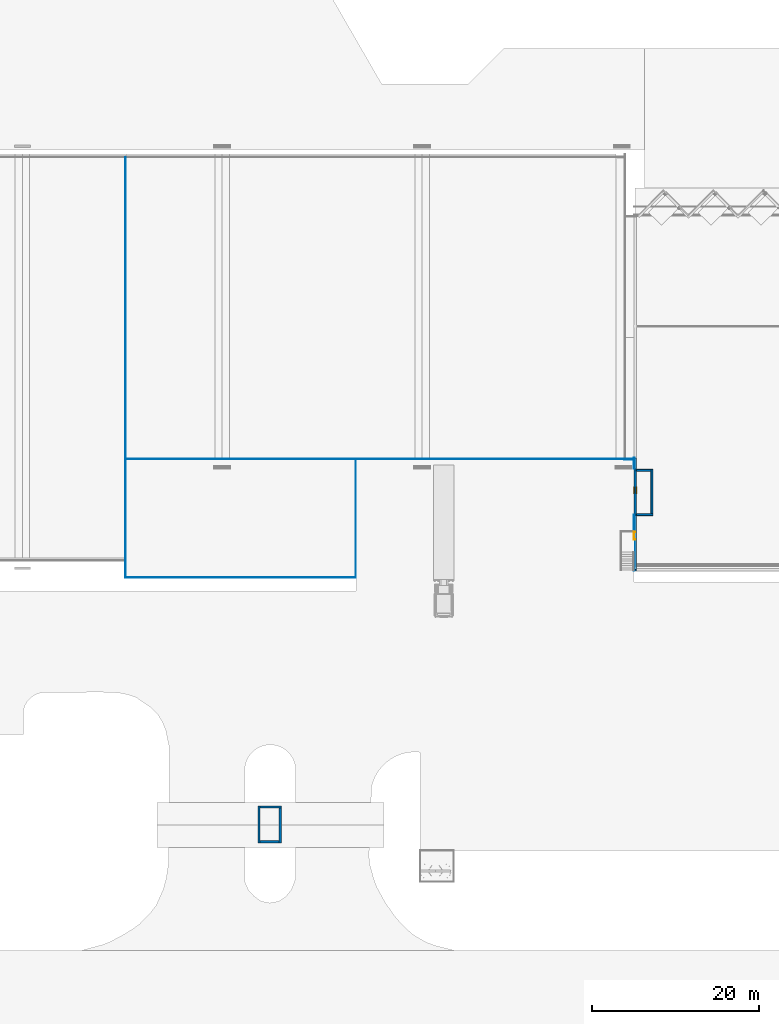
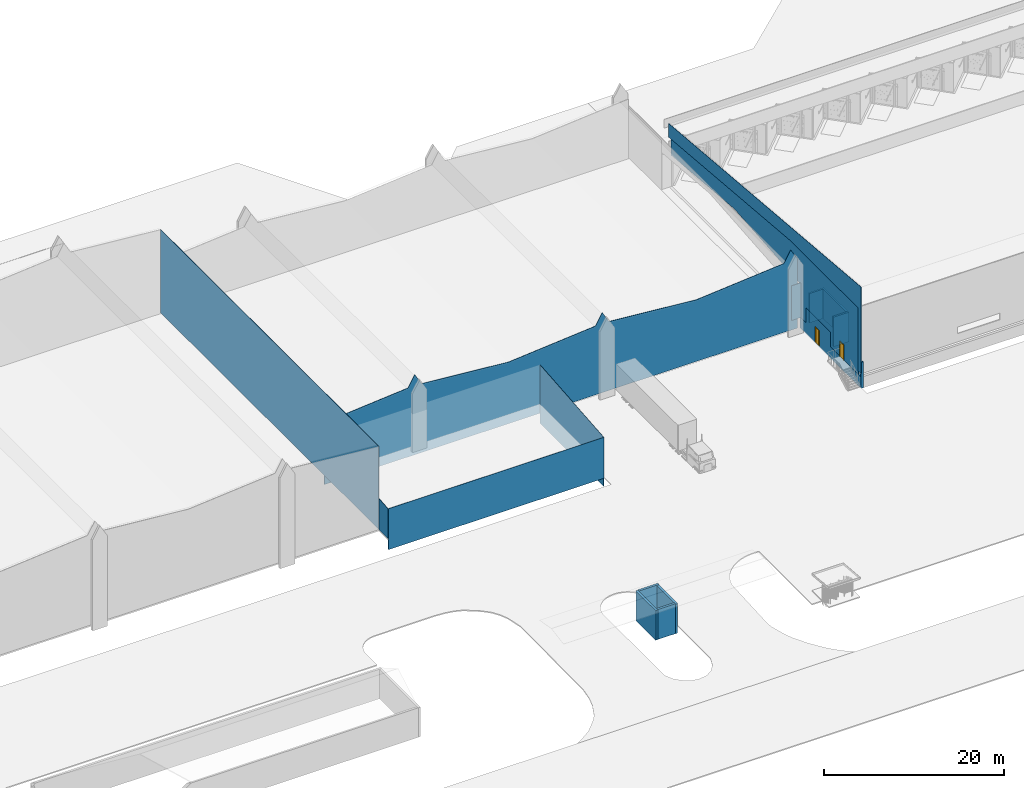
"""IFC2X3 building model written with IfcOpenShell, lengths in millimetres."""

from ifc_helpers import new_model, entity, si_unit, converted_unit, derived_unit, direction, frame, frame_2d, origin, origin_2d_with_axis, place, context, subcontext, project, spatial, polyline, rectangle, outline, extrude, clip, halfspace, source, transform, mapped, material, material_list, layer, layer_set, layer_usage, type_object, type_shapes, element, fill, save


model = new_model("IFC2X3")

# Units and contexts
model_context = context("Model", 3, precision=0.01, world=origin(), true_north=direction((4.05803320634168e-15, -1.0)))
body_context = subcontext(model_context, "Body", "Model", "MODEL_VIEW")
ifc_project = project(units=[si_unit("LENGTHUNIT", "METRE", prefix="MILLI"), si_unit("AREAUNIT", "SQUARE_METRE"), si_unit("VOLUMEUNIT", "CUBIC_METRE"), converted_unit("PLANEANGLEUNIT", "DEGREE", entity("IfcRatioMeasure", 0.0174532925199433), si_unit("PLANEANGLEUNIT", "RADIAN"), dimensions=[0, 0, 0, 0, 0, 0, 0]), si_unit("MASSUNIT", "GRAM", prefix="KILO"), derived_unit("MASSDENSITYUNIT", [(si_unit("MASSUNIT", "GRAM", prefix="KILO"), 1), (si_unit("LENGTHUNIT", "METRE"), -3)]), si_unit("TIMEUNIT", "SECOND"), si_unit("FREQUENCYUNIT", "HERTZ"), si_unit("THERMODYNAMICTEMPERATUREUNIT", "DEGREE_CELSIUS"), derived_unit("THERMALTRANSMITTANCEUNIT", [(si_unit("MASSUNIT", "GRAM", prefix="KILO"), 1), (si_unit("THERMODYNAMICTEMPERATUREUNIT", "KELVIN"), -1), (si_unit("TIMEUNIT", "SECOND"), -3)]), derived_unit("VOLUMETRICFLOWRATEUNIT", [(si_unit("LENGTHUNIT", "METRE"), 3), (si_unit("TIMEUNIT", "SECOND"), -1)]), si_unit("ELECTRICCURRENTUNIT", "AMPERE"), si_unit("ELECTRICVOLTAGEUNIT", "VOLT"), si_unit("POWERUNIT", "WATT"), si_unit("FORCEUNIT", "NEWTON", prefix="KILO"), si_unit("ILLUMINANCEUNIT", "LUX"), si_unit("LUMINOUSFLUXUNIT", "LUMEN"), si_unit("LUMINOUSINTENSITYUNIT", "CANDELA"), derived_unit("USERDEFINED", [(si_unit("MASSUNIT", "GRAM", prefix="KILO"), -1), (si_unit("LENGTHUNIT", "METRE"), -2), (si_unit("TIMEUNIT", "SECOND"), 3), (si_unit("LUMINOUSFLUXUNIT", "LUMEN"), 1)]), derived_unit("LINEARVELOCITYUNIT", [(si_unit("LENGTHUNIT", "METRE"), 1), (si_unit("TIMEUNIT", "SECOND"), -1)]), si_unit("PRESSUREUNIT", "PASCAL"), derived_unit("USERDEFINED", [(si_unit("LENGTHUNIT", "METRE"), -2), (si_unit("MASSUNIT", "GRAM", prefix="KILO"), 1), (si_unit("TIMEUNIT", "SECOND"), -2)])], contexts=[model_context])

# Site, building, storey
site_placement = place(None, frame((927466.849349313, 583801.882853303, 0.0), z_axis=(0.0, 0.0, 1.0), x_axis=(-1.0, 0.0, 0.0)))
site = spatial("IfcSite", under=ifc_project, at=site_placement, Name="Surface", CompositionType="ELEMENT")
building_placement = place(site_placement, origin())
building = spatial("IfcBuilding", under=site, at=building_placement, CompositionType="ELEMENT")
storey_1_placement = place(building_placement, frame((0.0, 0.0, 44170.0)))
storey_1 = spatial("IfcBuildingStorey", under=building, at=storey_1_placement, Name="Ground FFL", CompositionType="ELEMENT", Elevation=44170.0)

# Wall
ifc_material_1 = material(Name="Side cladding")
ifc_layer_1 = layer(ifc_material_1, 38.0)
ifc_layer_set_1 = layer_set([ifc_layer_1], Name="Basic Wall:Cladding dark")
ifc_layer_usage_1 = layer_usage(ifc_layer_set_1, "AXIS2", "NEGATIVE", 19.0)
wall_type_1 = type_object("IfcWallType", Name="Basic Wall:Cladding dark", PredefinedType="STANDARD", material=ifc_layer_set_1)
wall_1_placement = place(storey_1_placement, frame((16429.857875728, 10794.6738606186, 0.0), z_axis=(0.0, 0.0, 1.0), x_axis=(0.0, -1.0, 0.0)))
element("IfcWallStandardCase", 1, at=wall_1_placement, inside=storey_1, type_object=wall_type_1, material=ifc_layer_usage_1, Name="Basic Wall:Cladding dark", ObjectType="Basic Wall:Cladding dark", context=body_context, shape_type="SweptSolid", body=[
    extrude(rectangle(XDim=48392.4255867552, YDim=38.0, at=frame_2d((24196.2127933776, -8.88178419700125e-14), x_axis=(-1.0, 0.0))), origin(), (0.0, 0.0, 1.0), 11268.8624887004),
])

# Wall, openings
ifc_layer_usage_2 = layer_usage(ifc_layer_set_1, "AXIS2", "POSITIVE", -19.0)
wall_2_placement = place(storey_1_placement, frame((16410.8578757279, -1340.36461970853, -1300.0), z_axis=(0.0, 0.0, 1.0), x_axis=(-1.0, 0.0, 0.0)))
wall_2 = element("IfcWallStandardCase", 2, at=wall_2_placement, inside=storey_1, type_object=wall_type_1, material=ifc_layer_usage_2, Name="Basic Wall:Cladding dark", ObjectType="Basic Wall:Cladding dark", context=body_context, shape_type="Clipping", body=[
    clip(extrude(rectangle(XDim=60574.2060773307, YDim=38.0, at=frame_2d((30287.1030386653, -8.34887714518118e-14), x_axis=(-1.0, 0.0))), origin(), (0.0, 0.0, 1.0), 10853.2295723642), halfspace(frame((59744.9701931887, -19.0, 10853.2295723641), z_axis=(0.866025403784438, 0.0, 0.500000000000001), x_axis=(0.0, 1.0, 0.0)), False)),
])
opening_1_placement = place(wall_2_placement, origin())
element("IfcOpeningElement", 3, at=opening_1_placement, cuts=wall_2, Name="Basic Wall:Cladding dark", ObjectType="Opening", context=body_context, shape_type="SweptSolid", body=[
    extrude(outline(polyline([(-12075.2332121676, -1101.16334743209), (12075.2332121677, -1101.16334743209), (11204.2871230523, 407.359529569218), (0.0, 1387.60763572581), (-11204.2871230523, 407.359529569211), (-12075.2332121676, -1101.16334743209)])), frame((47669.736981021, 19.0, 9752.06622493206), z_axis=(0.0, -1.0, 0.0), x_axis=(-1.0, 0.0, 0.0)), (0.0, 0.0, 1.0), 38.0),
])
opening_2_placement = place(wall_2_placement, origin())
element("IfcOpeningElement", 4, at=opening_2_placement, cuts=wall_2, Name="Basic Wall:Cladding dark", ObjectType="Opening", context=body_context, shape_type="SweptSolid", body=[
    extrude(outline(polyline([(-12003.6323703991, -1112.34735409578), (12003.6323703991, -1112.34735409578), (11120.5139602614, 417.258601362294), (0.0, 1390.17750546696), (-11120.5139602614, 417.258601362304), (-12003.6323703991, -1112.34735409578)])), frame((23590.8713984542, 19.0, 9740.88221826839), z_axis=(0.0, -1.0, 0.0), x_axis=(-1.0, 0.0, 0.0)), (0.0, 0.0, 1.0), 38.0),
])
opening_3_placement = place(wall_2_placement, origin())
element("IfcOpeningElement", 5, at=opening_3_placement, cuts=wall_2, Name="Basic Wall:Cladding dark", ObjectType="Opening", context=body_context, shape_type="SweptSolid", body=[
    extrude(outline(polyline([(-6020.85603630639, -989.065546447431), (5585.38299174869, -989.065546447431), (5585.38299174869, 1458.67376234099), (-5149.90994719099, 519.457330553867), (-6020.85603630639, -989.065546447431)])), frame((5566.3829917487, 19.0, 9864.16402591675), z_axis=(0.0, -1.0, 0.0), x_axis=(-1.0, 0.0, 0.0)), (0.0, 0.0, 1.0), 38.0),
])

# Walls
ifc_material_2 = material(Name="Brick, Common")
ifc_layer_2 = layer(ifc_material_2, 110.0)
ifc_material_3 = material(Name="Air")
ifc_layer_3 = layer(ifc_material_3, 50.0)
ifc_layer_4 = layer(ifc_material_2, 110.0)
ifc_layer_set_2 = layer_set([ifc_layer_2, ifc_layer_3, ifc_layer_4], Name="Basic Wall:wall Brick 270")
ifc_layer_usage_3 = layer_usage(ifc_layer_set_2, "AXIS2", "NEGATIVE", 135.0)
wall_type_2 = type_object("IfcWallType", Name="Basic Wall:wall Brick 270", PredefinedType="STANDARD", material=ifc_layer_set_2)
wall_3_placement = place(storey_1_placement, frame((410.848393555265, 44725.0233918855, 0.0), z_axis=(0.0, 0.0, 1.0), x_axis=(0.0, -1.0, 0.0)))
element("IfcWallStandardCase", 6, at=wall_3_placement, inside=storey_1, type_object=wall_type_2, material=ifc_layer_usage_3, Name="Basic Wall:wall Brick 270", ObjectType="Basic Wall:wall Brick 270", context=body_context, shape_type="SweptSolid", body=[
    extrude(rectangle(XDim=4435.00000000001, YDim=270.0, at=frame_2d((2217.50000000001, 1.4210854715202e-14), x_axis=(-1.0, 0.0))), origin(), (0.0, 0.0, 1.0), 3999.99999999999),
])
ifc_layer_usage_4 = layer_usage(ifc_layer_set_2, "AXIS2", "NEGATIVE", 135.0)
wall_4_placement = place(storey_1_placement, frame((275.848393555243, 40425.0233918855, 0.0), z_axis=(0.0, 0.0, 1.0), x_axis=(-1.0, 0.0, 0.0)))
element("IfcWallStandardCase", 7, at=wall_4_placement, inside=storey_1, type_object=wall_type_2, material=ifc_layer_usage_4, Name="Basic Wall:wall Brick 270", ObjectType="Basic Wall:wall Brick 270", context=body_context, shape_type="SweptSolid", body=[
    extrude(rectangle(XDim=2555.17253898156, YDim=270.000000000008, at=frame_2d((1277.58626949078, -4.12114786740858e-13), x_axis=(-1.0, 0.0))), origin(), (0.0, 0.0, 1.0), 4050.77133059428),
])
ifc_layer_usage_5 = layer_usage(ifc_layer_set_2, "AXIS2", "NEGATIVE", 135.0)
wall_5_placement = place(storey_1_placement, frame((275.848393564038, 44580.8609107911, 0.0), z_axis=(0.0, 0.0, 1.0), x_axis=(-1.0, 0.0, 0.0)))
element("IfcWallStandardCase", 8, at=wall_5_placement, inside=storey_1, type_object=wall_type_2, material=ifc_layer_usage_5, Name="Basic Wall:wall Brick 270", ObjectType="Basic Wall:wall Brick 270", context=body_context, shape_type="SweptSolid", body=[
    extrude(rectangle(XDim=2270.00000002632, YDim=270.000000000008, at=frame_2d((1135.00000001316, -9.37916411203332e-13), x_axis=(-1.0, 0.0))), origin(), (0.0, 0.0, 1.0), 4050.19099187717),
])
ifc_layer_usage_6 = layer_usage(ifc_layer_set_2, "AXIS2", "NEGATIVE", 135.0)
wall_6_placement = place(storey_1_placement, frame((-2129.15160645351, 44725.0233918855, 0.0), z_axis=(0.0, 0.0, 1.0), x_axis=(0.0, -1.0, 0.0)))
element("IfcWallStandardCase", 9, at=wall_6_placement, inside=storey_1, type_object=wall_type_2, material=ifc_layer_usage_6, Name="Basic Wall:wall Brick 270", ObjectType="Basic Wall:wall Brick 270", context=body_context, shape_type="SweptSolid", body=[
    extrude(rectangle(XDim=4165.0, YDim=270.0, at=frame_2d((2082.5, 0.0), x_axis=(-1.0, 0.0))), origin(), (0.0, 0.0, 1.0), 3999.99999999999),
])
ifc_material_4 = material(Name="Isopenal")
ifc_layer_5 = layer(ifc_material_4, 38.0)
ifc_layer_set_3 = layer_set([ifc_layer_5], Name="Basic Wall:Cladding 2")
ifc_layer_usage_7 = layer_usage(ifc_layer_set_3, "AXIS2", "NEGATIVE", 19.0)
wall_type_3 = type_object("IfcWallType", Name="Basic Wall:Cladding 2", PredefinedType="STANDARD", material=ifc_layer_set_3)
wall_7_placement = place(storey_1_placement, frame((16429.857875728, 10832.6738606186, 0.0), z_axis=(0.0, 0.0, 1.0), x_axis=(0.0, 1.0, 0.0)))
element("IfcWallStandardCase", 10, at=wall_7_placement, inside=storey_1, type_object=wall_type_3, material=ifc_layer_usage_7, Name="Basic Wall:Cladding 2", ObjectType="Basic Wall:Cladding 2", context=body_context, shape_type="Clipping", body=[
    clip(extrude(rectangle(XDim=2038.00000000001, YDim=38.0, at=frame_2d((1019.0, 7.28306304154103e-14), x_axis=(-1.0, 0.0))), origin(), (0.0, 0.0, 1.0), 4228.49288814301), halfspace(frame((0.0, -19.0, 4228.49288814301), z_axis=(0.0871557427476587, 0.0, 0.996194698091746), x_axis=(0.0, 1.0, 0.0)), False)),
])
ifc_layer_usage_8 = layer_usage(ifc_layer_set_3, "AXIS2", "NEGATIVE", 19.0)
wall_8_placement = place(storey_1_placement, frame((16410.857875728, 12851.6738606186, -1500.50294636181), z_axis=(0.0, 0.0, 1.0), x_axis=(-1.0, 0.0, 0.0)))
element("IfcWallStandardCase", 11, at=wall_8_placement, inside=storey_1, type_object=wall_type_3, material=ifc_layer_usage_8, Name="Basic Wall:Cladding 2", ObjectType="Basic Wall:Cladding 2", context=body_context, shape_type="SweptSolid", body=[
    extrude(rectangle(XDim=27628.9119638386, YDim=38.0, at=frame_2d((13814.4559819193, 1.75859327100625e-13), x_axis=(-1.0, 0.0))), origin(), (0.0, 0.0, 1.0), 5550.69393823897),
])
ifc_layer_usage_9 = layer_usage(ifc_layer_set_3, "AXIS2", "NEGATIVE", 19.0)
wall_9_placement = place(storey_1_placement, frame((-11199.0540881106, 12832.6738606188, -2616.52714563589), z_axis=(0.0, 0.0, 1.0), x_axis=(0.0, -1.0, 0.0)))
element("IfcWallStandardCase", 12, at=wall_9_placement, inside=storey_1, type_object=wall_type_3, material=ifc_layer_usage_9, Name="Basic Wall:Cladding 2", ObjectType="Basic Wall:Cladding 2", context=body_context, shape_type="Clipping", body=[
    clip(extrude(rectangle(XDim=14154.0384803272, YDim=38.0, at=frame_2d((7077.01924016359, 3.41060513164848e-13), x_axis=(-1.0, 0.0))), origin(), (0.0, 0.0, 1.0), 7908.36061686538), halfspace(frame((0.0, -19.0, 6670.04270672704), z_axis=(-0.0871557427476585, 0.0, 0.996194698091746), x_axis=(0.0, 1.0, 0.0)), False)),
])

# Wall, opening
ifc_material_5 = material(Name="Cladding")
ifc_layer_6 = layer(ifc_material_5, 38.0)
ifc_layer_set_4 = layer_set([ifc_layer_6], Name="Basic Wall:Cladding")
ifc_layer_usage_10 = layer_usage(ifc_layer_set_4, "AXIS2", "POSITIVE", -19.0)
wall_type_4 = type_object("IfcWallType", Name="Basic Wall:Cladding", PredefinedType="STANDARD", material=ifc_layer_set_4)
wall_10_placement = place(storey_1_placement, frame((-44618.0423298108, 12086.2777512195, 500.0), z_axis=(0.0, 0.0, 1.0), x_axis=(0.0, -1.0, 0.0)))
wall_10 = element("IfcWallStandardCase", 13, at=wall_10_placement, inside=storey_1, type_object=wall_type_4, material=ifc_layer_usage_10, Name="Basic Wall:Cladding", ObjectType="Basic Wall:Cladding", context=body_context, shape_type="Clipping", body=[
    clip(extrude(rectangle(XDim=42693.0180722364, YDim=37.9999999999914, at=frame_2d((21346.5090361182, 8.82849349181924e-13), x_axis=(-1.0, 0.0))), origin(), (0.0, 0.0, 1.0), 11728.7878525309), halfspace(frame((0.0, -19.0, 11728.7878525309), z_axis=(0.0870039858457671, 0.0, 0.996207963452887), x_axis=(0.0, 1.0, 0.0)), False)),
])
opening_4_placement = place(wall_10_placement, origin())
element("IfcOpeningElement", 14, at=opening_4_placement, cuts=wall_10, Name="Basic Wall:Cladding", ObjectType="Opening", context=body_context, shape_type="SweptSolid", body=[
    extrude(outline(polyline([(-19838.806018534, -4628.59316107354), (22206.2120537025, -4628.59316107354), (22206.2120537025, 1514.37264429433), (-4734.81207033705, 3871.40683892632), (-19838.806018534, 3871.40683892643), (-19838.806018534, -4628.59316107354)])), frame((20486.8060185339, 19.0, 4628.59316107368), z_axis=(0.0, -1.0, 0.0), x_axis=(1.0, 0.0, 0.0)), (0.0, 0.0, 1.0), 38.0),
])

# Wall, openings, door
ifc_layer_7 = layer(ifc_material_4, 100.0)
ifc_layer_set_5 = layer_set([ifc_layer_7], Name="Basic Wall:Isopanel")
ifc_layer_usage_11 = layer_usage(ifc_layer_set_5, "AXIS2", "POSITIVE", -50.0)
wall_type_5 = type_object("IfcWallType", Name="Basic Wall:Isopanel", PredefinedType="STANDARD", material=ifc_layer_set_5)
wall_11_placement = place(storey_1_placement, frame((-44649.0423298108, 11488.2777512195, 0.0), z_axis=(0.0, 0.0, 1.0), x_axis=(0.0, -1.0, 0.0)))
wall_11 = element("IfcWallStandardCase", 15, at=wall_11_placement, inside=storey_1, type_object=wall_type_5, material=ifc_layer_usage_11, Name="Basic Wall:Isopanel", ObjectType="Basic Wall:Isopanel", context=body_context, shape_type="Clipping", body=[
    clip(extrude(rectangle(XDim=41610.018072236, YDim=99.9999999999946, at=frame_2d((20805.009036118, 6.85673740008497e-13), x_axis=(-1.0, 0.0))), origin(), (0.0, 0.0, 1.0), 9099.99999999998), halfspace(frame((14010.9887179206, -50.0, 9100.0), z_axis=(0.0871557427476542, 0.0, 0.996194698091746), x_axis=(0.0, 1.0, 0.0)), False)),
])
opening_5_placement = place(wall_11_placement, origin())
element("IfcOpeningElement", 16, at=opening_5_placement, cuts=wall_11, Name="Basic Wall:Isopanel", ObjectType="Opening", context=body_context, shape_type="SweptSolid", body=[
    extrude(rectangle(XDim=2030.0, YDim=700.0, at=frame_2d((-4.37694325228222e-12, -1.4210854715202e-13), x_axis=(1.0, 0.0))), frame((9106.6423709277, -1774.0, -345.0), z_axis=(0.0, 1.0, 0.0), x_axis=(0.0, 0.0, 1.0)), (0.0, 0.0, 1.0), 3048.0),
])
opening_6_placement = place(wall_11_placement, origin())
element("IfcOpeningElement", 17, at=opening_6_placement, cuts=wall_11, Name="Basic Wall:Isopanel", ObjectType="Opening", context=body_context, shape_type="SweptSolid", body=[
    extrude(outline(polyline([(-14346.7732732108, -2956.57342799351), (14281.2447990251, -2956.57342799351), (14281.2447990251, 1567.94360847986), (131.056948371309, 2805.92463217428), (-14346.7732732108, 1539.27861533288), (-14346.7732732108, -2956.57342799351)])), frame((27328.7732732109, 50.0, 2956.57342799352), z_axis=(0.0, -1.0, 0.0), x_axis=(1.0, 0.0, 0.0)), (0.0, 0.0, 1.0), 100.0),
])
opening_7_placement = place(wall_11_placement, origin())
element("IfcOpeningElement", 18, at=opening_7_placement, cuts=wall_11, Name="Basic Wall:Isopanel", ObjectType="Opening", context=body_context, shape_type="SweptSolid", body=[
    extrude(outline(polyline([(665.364989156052, -5912.88079030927), (677.317505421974, -5912.88079030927), (677.317505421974, 5708.76158061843), (-1342.68249457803, 5708.76158061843), (-1342.68249457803, 204.119209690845), (665.364989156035, 204.119209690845), (665.364989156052, -5912.88079030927)])), frame((5962.88079030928, 50.0, 677.317505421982), z_axis=(0.0, -1.0, 0.0), x_axis=(0.0, 0.0, -1.0)), (0.0, 0.0, 1.0), 100.0),
])
opening_8_placement = place(wall_11_placement, frame((3220.37189948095, -50.0, 0.0)))
opening_8 = element("IfcOpeningElement", 19, at=opening_8_placement, cuts=wall_11, Name="M_Single-Flush:813 x 2030mm:1", ObjectType="Opening", context=body_context, shape_type="SweptSolid", body=[
    extrude(rectangle(XDim=813.0, YDim=2030.0, at=frame_2d((1015.0, 406.5), x_axis=(0.0, 1.0))), frame((0.0, 0.0, 0.0), z_axis=(0.0, 1.0, 0.0), x_axis=(0.0, 0.0, 1.0)), (0.0, 0.0, 1.0), 100.0),
])
ifc_material_6 = material(Name="Door - Frame")
ifc_material_7 = material(Name="Door - Panel")
ifc_material_list_1 = material_list([ifc_material_6, ifc_material_7])
ifc_material_list_2 = material_list([ifc_material_6, ifc_material_7])
door_style_1 = type_object("IfcDoorStyle", Name="813 x 2030mm", ConstructionType="NOTDEFINED", OperationType="SINGLE_SWING_RIGHT", ParameterTakesPrecedence=False, Sizeable=False, material=ifc_material_list_2)
shared_shape_1 = source(origin(), body_context, "Body", "SweptSolid", [
    extrude(outline(polyline([(-482.5, -1072.0), (482.5, -1072.0), (482.5, 1034.0), (406.5, 1034.0), (406.5, -996.0), (-406.5, -996.0), (-406.5, 1034.0), (-482.5, 1034.0), (-482.5, -1072.0)])), frame((406.500000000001, 100.0, 1034.0), z_axis=(0.0, 1.0, 0.0), x_axis=(1.0, 0.0, 0.0)), (0.0, 0.0, 1.0), 24.9999999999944),
    extrude(outline(polyline([(-1072.0, -482.499999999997), (1034.0, -482.499999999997), (1034.0, -406.500000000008), (-996.0, -406.500000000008), (-996.0, 406.500000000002), (1034.0, 406.500000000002), (1034.0, 482.500000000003), (-1072.0, 482.500000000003), (-1072.0, -482.499999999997)])), frame((406.500000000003, -25.0, 1034.0), z_axis=(0.0, 1.0, 0.0), x_axis=(0.0, 0.0, -1.0)), (0.0, 0.0, 1.0), 25.0000000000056),
    extrude(rectangle(XDim=51.0, YDim=813.0, at=origin_2d_with_axis()), frame((406.500000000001, 74.4999999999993, 0.0), z_axis=(0.0, 0.0, 1.0), x_axis=(0.0, 1.0, 0.0)), (0.0, 0.0, 1.0), 2030.0),
])
type_shapes(door_style_1, [shared_shape_1])
door_1_placement = place(opening_8_placement, origin())
door_1 = element("IfcDoor", 20, at=door_1_placement, inside=storey_1, type_object=door_style_1, material=ifc_material_list_1, Name="M_Single-Flush:813 x 2030mm", ObjectType="813 x 2030mm", OverallHeight=2030.0, OverallWidth=813.0, context=body_context, shape_type="MappedRepresentation", body=[
    mapped(shared_shape_1, transform((0.0, 0.0, 0.0), scale=1.0)),
])
fill(opening_8, door_1)

# Wall
ifc_layer_usage_12 = layer_usage(ifc_layer_set_5, "AXIS2", "NEGATIVE", 50.0)
wall_12_placement = place(storey_1_placement, frame((-43426.8610299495, -1340.36461970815, 0.0), z_axis=(0.0, 0.0, 1.0), x_axis=(-1.0, 0.0, 0.0)))
element("IfcWallStandardCase", 21, at=wall_12_placement, inside=storey_1, type_object=wall_type_5, material=ifc_layer_usage_12, Name="Basic Wall:Isopanel", ObjectType="Basic Wall:Isopanel", context=body_context, shape_type="SweptSolid", body=[
    extrude(rectangle(XDim=1172.18129986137, YDim=100.0, at=frame_2d((586.090649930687, 0.0), x_axis=(-1.0, 0.0))), origin(), (0.0, 0.0, 1.0), 4700.00000000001),
])

# Wall, openings
ifc_material_8 = material(Name="conc bund")
ifc_layer_8 = layer(ifc_material_8, 300.0)
ifc_layer_set_6 = layer_set([ifc_layer_8], Name="Basic Wall:300 bund wall")
ifc_layer_usage_13 = layer_usage(ifc_layer_set_6, "AXIS2", "NEGATIVE", 150.0)
wall_type_6 = type_object("IfcWallType", Name="Basic Wall:300 bund wall", PredefinedType="STANDARD", material=ifc_layer_set_6)
wall_13_placement = place(storey_1_placement, frame((-44749.0423298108, 12086.2777512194, -1500.50294636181), z_axis=(0.0, 0.0, 1.0), x_axis=(0.0, -1.0, 0.0)))
wall_13 = element("IfcWallStandardCase", 22, at=wall_13_placement, inside=storey_1, type_object=wall_type_6, material=ifc_layer_usage_13, Name="Basic Wall:300 bund wall", ObjectType="Basic Wall:300 bund wall", context=body_context, shape_type="SweptSolid", body=[
    extrude(rectangle(XDim=13580.0, YDim=300.000000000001, at=frame_2d((6790.00000000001, 4.9737991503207e-13), x_axis=(-1.0, 0.0))), origin(), (0.0, 0.0, 1.0), 3520.50294636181),
])
opening_9_placement = place(wall_13_placement, origin())
element("IfcOpeningElement", 23, at=opening_9_placement, cuts=wall_13, Name="Basic Wall:300 bund wall", ObjectType="Opening", context=body_context, shape_type="SweptSolid", body=[
    extrude(rectangle(XDim=2030.0, YDim=813.0, at=frame_2d((-4.32009983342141e-12, 5.40012479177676e-13), x_axis=(1.0, 0.0))), frame((4224.87189948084, -1474.0, 2515.50294636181), z_axis=(0.0, 1.0, 0.0), x_axis=(0.0, 0.0, 1.0)), (0.0, 0.0, 1.0), 3048.0),
])
opening_10_placement = place(wall_13_placement, origin())
element("IfcOpeningElement", 24, at=opening_10_placement, cuts=wall_13, Name="Basic Wall:300 bund wall", ObjectType="Opening", context=body_context, shape_type="SweptSolid", body=[
    extrude(rectangle(XDim=2008.04748373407, YDim=1310.35762907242, at=frame_2d((-4.32009983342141e-12, -2.27373675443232e-13), x_axis=(1.0, 0.0))), frame((12924.8211854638, 150.0, 2516.47920449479), z_axis=(0.0, -1.0, 0.0), x_axis=(0.0, 0.0, 1.0)), (0.0, 0.0, 1.0), 300.0),
])
opening_11_placement = place(wall_13_placement, origin())
element("IfcOpeningElement", 25, at=opening_11_placement, cuts=wall_13, Name="Basic Wall:300 bund wall", ObjectType="Opening", context=body_context, shape_type="SweptSolid", body=[
    extrude(rectangle(XDim=2008.04748373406, YDim=6615.0, at=frame_2d((0.0, 0.0), x_axis=(0.0, 1.0))), frame((3457.5, 150.0, 2516.47920449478), z_axis=(0.0, -1.0, 0.0), x_axis=(-1.0, 0.0, 0.0)), (0.0, 0.0, 1.0), 300.0),
])
opening_12_placement = place(wall_13_placement, frame((9354.64237092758, -150.0, 140.502946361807)))
opening_12 = element("IfcOpeningElement", 26, at=opening_12_placement, cuts=wall_13, Name="M_Single-Flush:700 x 2030mm:1", ObjectType="Opening", context=body_context, shape_type="SweptSolid", body=[
    extrude(rectangle(XDim=700.000000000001, YDim=2030.0, at=frame_2d((1015.0, 350.0), x_axis=(0.0, 1.0))), frame((0.0, 0.0, 0.0), z_axis=(0.0, 1.0, 0.0), x_axis=(0.0, 0.0, 1.0)), (0.0, 0.0, 1.0), 300.0),
])

# Storey
storey_2_placement = place(building_placement, frame((0.0, 0.0, 42810.0)))
storey_2 = spatial("IfcBuildingStorey", under=building, at=storey_2_placement, Name="Hardstand", CompositionType="ELEMENT", Elevation=42810.0)

# Door
ifc_material_list_3 = material_list([ifc_material_6, ifc_material_7])
ifc_material_list_4 = material_list([ifc_material_6, ifc_material_7])
door_style_2 = type_object("IfcDoorStyle", Name="700 x 2030mm", ConstructionType="NOTDEFINED", OperationType="SINGLE_SWING_RIGHT", ParameterTakesPrecedence=False, Sizeable=False, material=ifc_material_list_4)
shared_shape_2 = source(origin(), body_context, "Body", "SweptSolid", [
    extrude(outline(polyline([(-426.0, -1072.0), (426.0, -1072.0), (426.0, 1034.0), (350.0, 1034.0), (350.0, -996.0), (-350.0, -996.0), (-350.0, 1034.0), (-426.0, 1034.0), (-426.0, -1072.0)])), frame((350.0, 300.0, 1034.0), z_axis=(0.0, 1.0, 0.0), x_axis=(1.0, 0.0, 0.0)), (0.0, 0.0, 1.0), 24.9999999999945),
    extrude(outline(polyline([(-1072.0, -426.0), (1034.0, -426.0), (1034.0, -350.0), (-996.0, -350.0), (-996.0, 350.0), (1034.0, 350.0), (1034.0, 426.0), (-1072.0, 426.0), (-1072.0, -426.0)])), frame((350.0, -25.0, 1034.0), z_axis=(0.0, 1.0, 0.0), x_axis=(0.0, 0.0, -1.0)), (0.0, 0.0, 1.0), 25.0000000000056),
    extrude(rectangle(XDim=51.0, YDim=700.0, at=frame_2d((8.88178419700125e-15, 0.0), x_axis=(1.0, 0.0))), frame((350.0, 274.499999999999, 0.0), z_axis=(0.0, 0.0, 1.0), x_axis=(0.0, 1.0, 0.0)), (0.0, 0.0, 1.0), 2030.0),
])
type_shapes(door_style_2, [shared_shape_2])
door_2_placement = place(opening_12_placement, origin())
door_2 = element("IfcDoor", 27, at=door_2_placement, inside=storey_2, type_object=door_style_2, material=ifc_material_list_3, Name="M_Single-Flush:700 x 2030mm", ObjectType="700 x 2030mm", OverallHeight=2030.0, OverallWidth=700.000000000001, context=body_context, shape_type="MappedRepresentation", body=[
    mapped(shared_shape_2, transform((0.0, 0.0, 0.0), scale=1.0)),
])

fill(opening_12, door_2)

# Walls
ifc_layer_9 = layer(ifc_material_2, 230.0)
ifc_layer_set_7 = layer_set([ifc_layer_9], Name="Basic Wall:wall Brick 230")
ifc_layer_usage_14 = layer_usage(ifc_layer_set_7, "AXIS2", "NEGATIVE", 115.0)
wall_type_7 = type_object("IfcWallType", Name="Basic Wall:wall Brick 230", PredefinedType="STANDARD", material=ifc_layer_set_7)
wall_14_placement = place(storey_1_placement, frame((-44899.0423298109, 5321.27775121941, 0.0), z_axis=(0.0, 0.0, 1.0), x_axis=(-1.0, 0.0, 0.0)))
element("IfcWallStandardCase", 28, at=wall_14_placement, inside=storey_1, type_object=wall_type_7, material=ifc_layer_usage_14, Name="Basic Wall:wall Brick 230", ObjectType="Basic Wall:wall Brick 230", context=body_context, shape_type="SweptSolid", body=[
    extrude(rectangle(XDim=1965.0, YDim=230.0, at=frame_2d((982.500000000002, -6.3948846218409e-14), x_axis=(-1.0, 0.0))), origin(), (0.0, 0.0, 1.0), 3999.99999999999),
])
ifc_layer_usage_15 = layer_usage(ifc_layer_set_7, "AXIS2", "NEGATIVE", 115.0)
wall_15_placement = place(storey_1_placement, frame((-46749.0423298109, 5206.27775121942, 0.0), z_axis=(0.0, 0.0, 1.0), x_axis=(0.0, -1.0, 0.0)))
element("IfcWallStandardCase", 29, at=wall_15_placement, inside=storey_1, type_object=wall_type_7, material=ifc_layer_usage_15, Name="Basic Wall:wall Brick 230", ObjectType="Basic Wall:wall Brick 230", context=body_context, shape_type="SweptSolid", body=[
    extrude(rectangle(XDim=5304.64237092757, YDim=230.0, at=frame_2d((2652.32118546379, 2.8421709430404e-14), x_axis=(-1.0, 0.0))), origin(), (0.0, 0.0, 1.0), 3999.99999999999),
])
ifc_layer_usage_16 = layer_usage(ifc_layer_set_7, "AXIS2", "NEGATIVE", 115.0)
wall_16_placement = place(storey_1_placement, frame((-44699.0423298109, 16.6353802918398, 0.0), z_axis=(0.0, 0.0, 1.0), x_axis=(-1.0, 0.0, 0.0)))
element("IfcWallStandardCase", 30, at=wall_16_placement, inside=storey_1, type_object=wall_type_7, material=ifc_layer_usage_16, Name="Basic Wall:wall Brick 230", ObjectType="Basic Wall:wall Brick 230", context=body_context, shape_type="SweptSolid", body=[
    extrude(rectangle(XDim=1734.99999999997, YDim=230.0, at=frame_2d((1067.49999999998, 0.0), x_axis=(-1.0, 0.0))), origin(), (0.0, 0.0, 1.0), 3999.99999999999),
])

save(model, "model.ifc")
